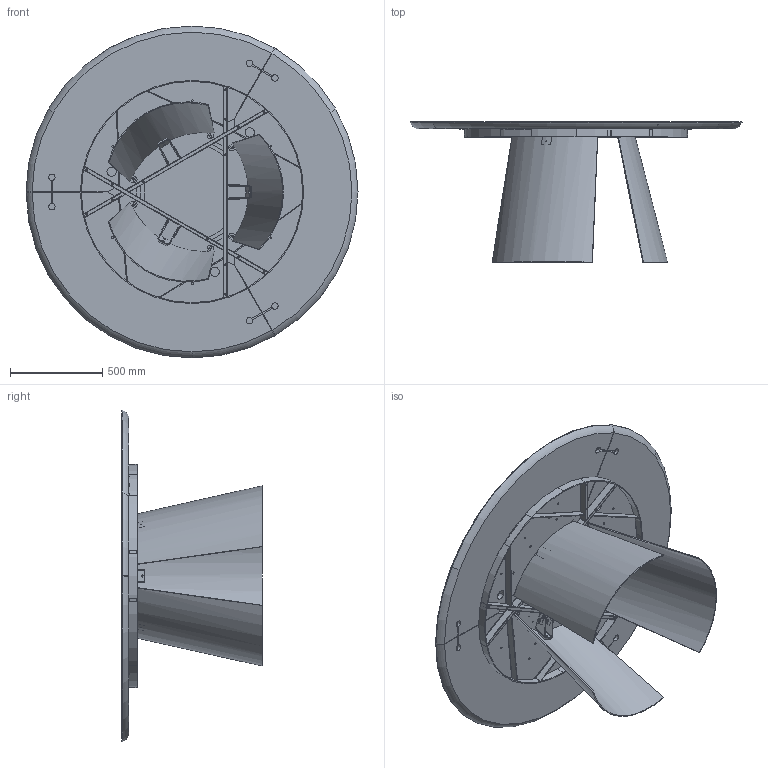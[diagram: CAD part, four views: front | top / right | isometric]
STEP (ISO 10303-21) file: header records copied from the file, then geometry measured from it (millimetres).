
FILE_DESCRIPTION (( 'STEP AP203' ), '1' );
FILE_NAME ('DN16L_Dorian_d.180_LegnoCeramica.STEP', '2024-07-31T12:57:50', ( '' ), ( '' ), 'SwSTEP 2.0', 'SolidWorks 2022', '' );
FILE_SCHEMA (( 'CONFIG_CONTROL_DESIGN' ));
Length unit declared in the file: millimetre
Products named in the file (18): TTAV12GR_01-02-TRAVERSO; CUSCINETTO SFERE Ø600; spina_SPINA Ø10X40; K03X-00-SOLO CERAMICA; TTAV12GR_03-02-PIASTRA ANCORAGGIO; DNB300000_02-02-RISCONTRO STANGONE CENTRALE; DNB300000_01-02-GAMBA DORIAN; TTAV11GR05-01-STAFFA FISSAGGIO DORIAN LEG_CER 180_220 GREZZO; W16_01-00-SPICCHIO SINGOLO Ø180; Vite Legno 3,0xXX_S4.5x40; DNB300000_03-02-PIASTRINA; TTAV11GR_04-02-ANCORAGGIO DORIAN; LAM000002-01-LAME METALLO X TAVOLI LEG CER D180 GREZZO; DN16L_Dorian_d.180_LegnoCeramica; W16_03-00-PIANO + LAMA; TTAV12GR_02-02-RING PIATTO; SDNB300000-02-GAMBA X TRASP; TTAV12GR-02-TELAIO X TAVOLO LEG_CER D180 GREZZO
Assembly tree (36 placements, depth 3):
  DN16L_Dorian_d.180_LegnoCeramica
    TTAV12GR-02-TELAIO X TAVOLO LEG_CER D180 GREZZO
      TTAV12GR_01-02-TRAVERSO  x3
      TTAV12GR_02-02-RING PIATTO
      TTAV12GR_03-02-PIASTRA ANCORAGGIO  x3
      TTAV11GR_04-02-ANCORAGGIO DORIAN  x6
    SDNB300000-02-GAMBA X TRASP  x3
      DNB300000_01-02-GAMBA DORIAN
      DNB300000_02-02-RISCONTRO STANGONE CENTRALE
      DNB300000_03-02-PIASTRINA
    TTAV11GR05-01-STAFFA FISSAGGIO DORIAN LEG_CER 180_220 GREZZO  x3
    W16_03-00-PIANO + LAMA  x3
      W16_01-00-SPICCHIO SINGOLO Ø180
      LAM000002-01-LAME METALLO X TAVOLI LEG CER D180 GREZZO
      spina_SPINA Ø10X40
      Vite Legno 3,0xXX_S4.5x40
    CUSCINETTO SFERE Ø600
    K03X-00-SOLO CERAMICA
Bounding box: 1800.11 x 762.25 x 1799.86 mm (x, y, z)
Volume: 96325078.8 mm3; surface area: 12392477.1 mm2
Topology: 52 solids, 52 shells, 2063 faces, 5582 edges, 3545 vertices
Faces by surface type: cylinder 819, plane 694, bspline 246, cone 166, torus 138
Entity records: 27421 total; most frequent: CARTESIAN_POINT 11547, ORIENTED_EDGE 2846, DIRECTION 2732, EDGE_CURVE 1423, AXIS2_PLACEMENT_3D 1000, VERTEX_POINT 909, VECTOR 732, LINE 732
